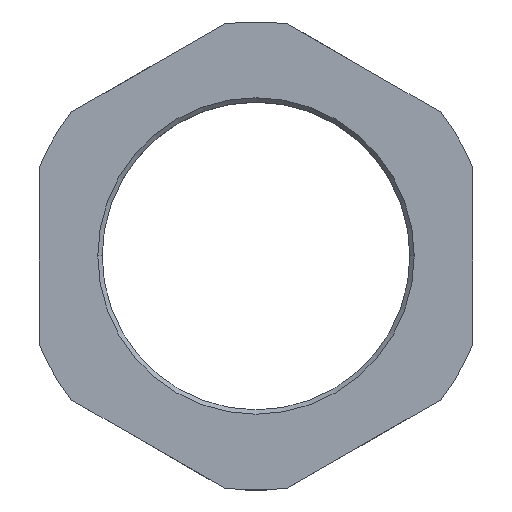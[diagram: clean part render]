
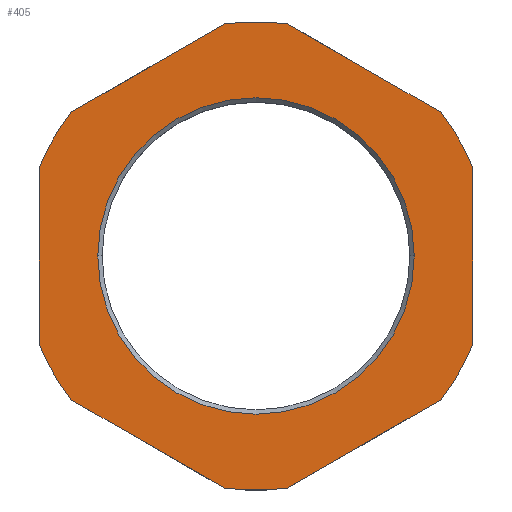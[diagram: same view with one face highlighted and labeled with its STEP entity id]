
A CAD part, top view. The second image highlights one B-rep face of the part: STEP entity #405.
In plain terms, the highlighted planar face has unit normal (0, 0, 1).
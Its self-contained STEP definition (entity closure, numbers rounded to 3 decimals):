
#289 = ORIENTED_EDGE ( 'NONE', *, *, #291, .T. ) ;
#290 = EDGE_CURVE ( 'NONE', #326, #337, #1070, .T. ) ;
#291 = EDGE_CURVE ( 'NONE', #337, #346, #1032, .T. ) ;
#313 = EDGE_CURVE ( 'NONE', #369, #394, #1077, .T. ) ;
#314 = EDGE_CURVE ( 'NONE', #316, #315, #1097, .T. ) ;
#315 = VERTEX_POINT ( 'NONE', #1100 ) ;
#316 = VERTEX_POINT ( 'NONE', #1089 ) ;
#317 = ORIENTED_EDGE ( 'NONE', *, *, #314, .T. ) ;
#321 = ORIENTED_EDGE ( 'NONE', *, *, #290, .T. ) ;
#324 = ORIENTED_EDGE ( 'NONE', *, *, #325, .T. ) ;
#325 = EDGE_CURVE ( 'NONE', #412, #326, #1094, .T. ) ;
#326 = VERTEX_POINT ( 'NONE', #1101 ) ;
#337 = VERTEX_POINT ( 'NONE', #1122 ) ;
#346 = VERTEX_POINT ( 'NONE', #1136 ) ;
#347 = VERTEX_POINT ( 'NONE', #1135 ) ;
#348 = VERTEX_POINT ( 'NONE', #1134 ) ;
#350 = ORIENTED_EDGE ( 'NONE', *, *, #351, .T. ) ;
#351 = EDGE_CURVE ( 'NONE', #403, #348, #1158, .T. ) ;
#359 = EDGE_LOOP ( 'NONE', ( #364, #360 ) ) ;
#360 = ORIENTED_EDGE ( 'NONE', *, *, #376, .T. ) ;
#361 = ORIENTED_EDGE ( 'NONE', *, *, #393, .T. ) ;
#362 = EDGE_LOOP ( 'NONE', ( #377, #404, #350, #361, #317, #373, #370, #368, #366, #324, #321, #289 ) ) ;
#364 = ORIENTED_EDGE ( 'NONE', *, *, #426, .T. ) ;
#365 = EDGE_CURVE ( 'NONE', #347, #403, #1151, .T. ) ;
#366 = ORIENTED_EDGE ( 'NONE', *, *, #414, .T. ) ;
#367 = EDGE_CURVE ( 'NONE', #371, #369, #1152, .T. ) ;
#368 = ORIENTED_EDGE ( 'NONE', *, *, #313, .T. ) ;
#369 = VERTEX_POINT ( 'NONE', #1204 ) ;
#370 = ORIENTED_EDGE ( 'NONE', *, *, #367, .T. ) ;
#371 = VERTEX_POINT ( 'NONE', #1199 ) ;
#372 = EDGE_CURVE ( 'NONE', #315, #371, #1215, .T. ) ;
#373 = ORIENTED_EDGE ( 'NONE', *, *, #372, .T. ) ;
#376 = EDGE_CURVE ( 'NONE', #424, #427, #1198, .T. ) ;
#377 = ORIENTED_EDGE ( 'NONE', *, *, #378, .T. ) ;
#378 = EDGE_CURVE ( 'NONE', #346, #347, #1197, .T. ) ;
#393 = EDGE_CURVE ( 'NONE', #348, #316, #1328, .T. ) ;
#394 = VERTEX_POINT ( 'NONE', #1248 ) ;
#403 = VERTEX_POINT ( 'NONE', #1230 ) ;
#404 = ORIENTED_EDGE ( 'NONE', *, *, #365, .T. ) ;
#405 = ADVANCED_FACE ( 'NONE', ( #1229, #1228 ), #1227, .F. ) ;
#412 = VERTEX_POINT ( 'NONE', #1222 ) ;
#414 = EDGE_CURVE ( 'NONE', #394, #412, #1221, .T. ) ;
#424 = VERTEX_POINT ( 'NONE', #1301 ) ;
#426 = EDGE_CURVE ( 'NONE', #427, #424, #1272, .T. ) ;
#427 = VERTEX_POINT ( 'NONE', #1267 ) ;
#1031 = AXIS2_PLACEMENT_3D ( 'NONE', #1063, #1062, #1056 ) ;
#1032 = CIRCLE ( 'NONE', #1031, 27. ) ;
#1053 = DIRECTION ( 'NONE',  ( -0.866, 0.5, 0. ) ) ;
#1054 = VECTOR ( 'NONE', #1053, 1000. ) ;
#1056 = DIRECTION ( 'NONE',  ( 1., 0., 0. ) ) ;
#1062 = DIRECTION ( 'NONE',  ( 0., 0., 1. ) ) ;
#1063 = CARTESIAN_POINT ( 'NONE',  ( 0., 0., 0. ) ) ;
#1069 = CARTESIAN_POINT ( 'NONE',  ( 25., 14.434, 0. ) ) ;
#1070 = LINE ( 'NONE', #1069, #1054 ) ;
#1071 = CARTESIAN_POINT ( 'NONE',  ( 0., 0., 0. ) ) ;
#1072 = AXIS2_PLACEMENT_3D ( 'NONE', #1071, #1106, #1095 ) ;
#1077 = CIRCLE ( 'NONE', #1072, 27. ) ;
#1089 = CARTESIAN_POINT ( 'NONE',  ( -21.332, -16.552, 0. ) ) ;
#1090 = DIRECTION ( 'NONE',  ( 1., 0., 0. ) ) ;
#1091 = DIRECTION ( 'NONE',  ( 0., 0., 1. ) ) ;
#1092 = CARTESIAN_POINT ( 'NONE',  ( 0., 0., 0. ) ) ;
#1093 = AXIS2_PLACEMENT_3D ( 'NONE', #1092, #1091, #1090 ) ;
#1094 = CIRCLE ( 'NONE', #1093, 27. ) ;
#1095 = DIRECTION ( 'NONE',  ( 1., 0., 0. ) ) ;
#1096 = CARTESIAN_POINT ( 'NONE',  ( -25., -14.434, 0. ) ) ;
#1097 = LINE ( 'NONE', #1096, #1099 ) ;
#1098 = DIRECTION ( 'NONE',  ( 0.866, -0.5, 0. ) ) ;
#1099 = VECTOR ( 'NONE', #1098, 1000. ) ;
#1100 = CARTESIAN_POINT ( 'NONE',  ( -3.668, -26.75, 0. ) ) ;
#1101 = CARTESIAN_POINT ( 'NONE',  ( 21.332, 16.552, 0. ) ) ;
#1106 = DIRECTION ( 'NONE',  ( 0., 0., 1. ) ) ;
#1122 = CARTESIAN_POINT ( 'NONE',  ( 3.668, 26.75, 0. ) ) ;
#1134 = CARTESIAN_POINT ( 'NONE',  ( -25., -10.198, 0. ) ) ;
#1135 = CARTESIAN_POINT ( 'NONE',  ( -21.332, 16.552, 0. ) ) ;
#1136 = CARTESIAN_POINT ( 'NONE',  ( -3.668, 26.75, 0. ) ) ;
#1146 = DIRECTION ( 'NONE',  ( 0., -1., 0. ) ) ;
#1147 = VECTOR ( 'NONE', #1146, 1000. ) ;
#1148 = DIRECTION ( 'NONE',  ( 0., 0., 1. ) ) ;
#1149 = CARTESIAN_POINT ( 'NONE',  ( 0., 0., 0. ) ) ;
#1150 = AXIS2_PLACEMENT_3D ( 'NONE', #1149, #1148, #1173 ) ;
#1151 = CIRCLE ( 'NONE', #1150, 27. ) ;
#1152 = LINE ( 'NONE', #1171, #1170 ) ;
#1155 = CARTESIAN_POINT ( 'NONE',  ( -25., 14.434, 0. ) ) ;
#1158 = LINE ( 'NONE', #1155, #1147 ) ;
#1169 = DIRECTION ( 'NONE',  ( 0.866, 0.5, 0. ) ) ;
#1170 = VECTOR ( 'NONE', #1169, 1000. ) ;
#1171 = CARTESIAN_POINT ( 'NONE',  ( 0., -28.868, 0. ) ) ;
#1173 = DIRECTION ( 'NONE',  ( 1., 0., 0. ) ) ;
#1195 = AXIS2_PLACEMENT_3D ( 'NONE', #1206, #1212, #1211 ) ;
#1196 = CARTESIAN_POINT ( 'NONE',  ( 0., 28.868, 0. ) ) ;
#1197 = LINE ( 'NONE', #1196, #1208 ) ;
#1198 = CIRCLE ( 'NONE', #1195, 18.24 ) ;
#1199 = CARTESIAN_POINT ( 'NONE',  ( 3.668, -26.75, 0. ) ) ;
#1204 = CARTESIAN_POINT ( 'NONE',  ( 21.332, -16.552, 0. ) ) ;
#1205 = DIRECTION ( 'NONE',  ( 1., 0., 0. ) ) ;
#1206 = CARTESIAN_POINT ( 'NONE',  ( 0., 0., 0. ) ) ;
#1207 = DIRECTION ( 'NONE',  ( -0.866, -0.5, 0. ) ) ;
#1208 = VECTOR ( 'NONE', #1207, 1000. ) ;
#1209 = DIRECTION ( 'NONE',  ( 0., 0., 1. ) ) ;
#1210 = CARTESIAN_POINT ( 'NONE',  ( 0., 0., 0. ) ) ;
#1211 = DIRECTION ( 'NONE',  ( -1., 0., 0. ) ) ;
#1212 = DIRECTION ( 'NONE',  ( 0., 0., -1. ) ) ;
#1214 = AXIS2_PLACEMENT_3D ( 'NONE', #1210, #1209, #1205 ) ;
#1215 = CIRCLE ( 'NONE', #1214, 27. ) ;
#1221 = LINE ( 'NONE', #1331, #1330 ) ;
#1222 = CARTESIAN_POINT ( 'NONE',  ( 25., 10.198, 0. ) ) ;
#1227 = PLANE ( 'NONE',  #1265 ) ;
#1228 = FACE_OUTER_BOUND ( 'NONE', #362, .T. ) ;
#1229 = FACE_BOUND ( 'NONE', #359, .T. ) ;
#1230 = CARTESIAN_POINT ( 'NONE',  ( -25., 10.198, 0. ) ) ;
#1248 = CARTESIAN_POINT ( 'NONE',  ( 25., -10.198, 0. ) ) ;
#1249 = DIRECTION ( 'NONE',  ( 1., 0., 0. ) ) ;
#1265 = AXIS2_PLACEMENT_3D ( 'NONE', #1285, #1284, #1283 ) ;
#1267 = CARTESIAN_POINT ( 'NONE',  ( 18.24, 0., 0. ) ) ;
#1268 = DIRECTION ( 'NONE',  ( -1., 0., 0. ) ) ;
#1269 = DIRECTION ( 'NONE',  ( 0., 0., -1. ) ) ;
#1270 = CARTESIAN_POINT ( 'NONE',  ( 0., 0., 0. ) ) ;
#1271 = AXIS2_PLACEMENT_3D ( 'NONE', #1270, #1269, #1268 ) ;
#1272 = CIRCLE ( 'NONE', #1271, 18.24 ) ;
#1283 = DIRECTION ( 'NONE',  ( -1., 0., 0. ) ) ;
#1284 = DIRECTION ( 'NONE',  ( 0., 0., -1. ) ) ;
#1285 = CARTESIAN_POINT ( 'NONE',  ( 0., 0., 0. ) ) ;
#1299 = DIRECTION ( 'NONE',  ( 0., 0., 1. ) ) ;
#1300 = CARTESIAN_POINT ( 'NONE',  ( 0., 0., 0. ) ) ;
#1301 = CARTESIAN_POINT ( 'NONE',  ( -18.24, 0., 0. ) ) ;
#1327 = AXIS2_PLACEMENT_3D ( 'NONE', #1300, #1299, #1249 ) ;
#1328 = CIRCLE ( 'NONE', #1327, 27. ) ;
#1329 = DIRECTION ( 'NONE',  ( 0., 1., 0. ) ) ;
#1330 = VECTOR ( 'NONE', #1329, 1000. ) ;
#1331 = CARTESIAN_POINT ( 'NONE',  ( 25., -14.434, 0. ) ) ;
